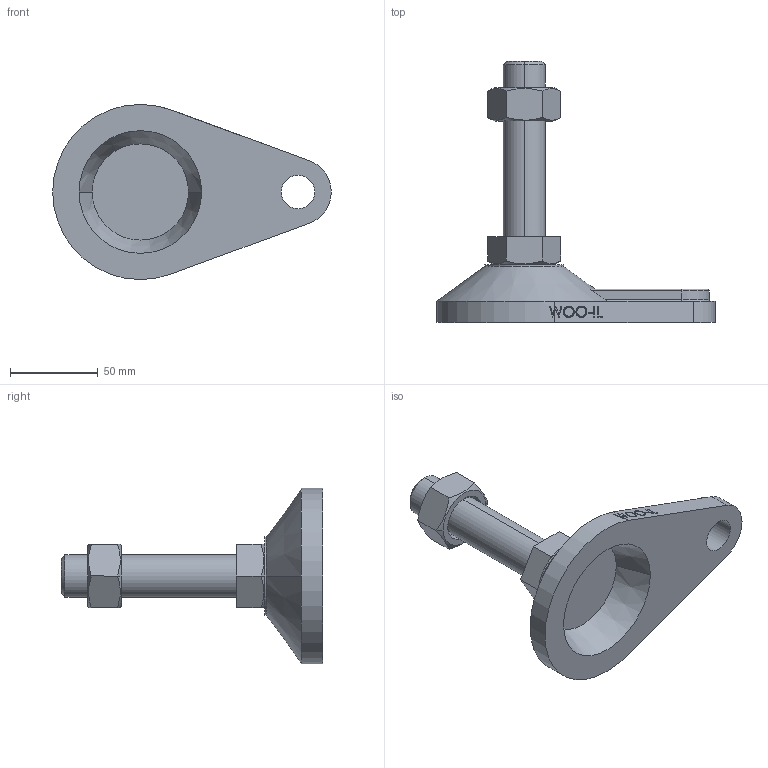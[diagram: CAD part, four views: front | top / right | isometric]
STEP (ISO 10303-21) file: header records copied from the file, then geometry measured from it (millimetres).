
FILE_DESCRIPTION (( 'STEP AP214' ), '1' );
FILE_NAME ('PAD-A100-M24-100.step', '2021-03-08T08:08:28', ( '' ), ( '' ), 'SwSTEP 2.0', 'SolidWorks 2019', '' );
FILE_SCHEMA (( 'AUTOMOTIVE_DESIGN' ));
Length unit declared in the file: millimetre
Products named in the file (2): PAD-A100-M24-100
Bounding box: 159 x 149 x 100 mm (x, y, z)
Volume: 241816 mm3; surface area: 49221.4 mm2
Topology: 3 solids, 3 shells, 112 faces, 271 edges, 174 vertices
Faces by surface type: plane 61, cylinder 17, cone 16, bspline 16, torus 2
Entity records: 4831 total; most frequent: CARTESIAN_POINT 2257, ORIENTED_EDGE 542, DIRECTION 462, EDGE_CURVE 271, VERTEX_POINT 174, LINE 156, VECTOR 156, AXIS2_PLACEMENT_3D 153
